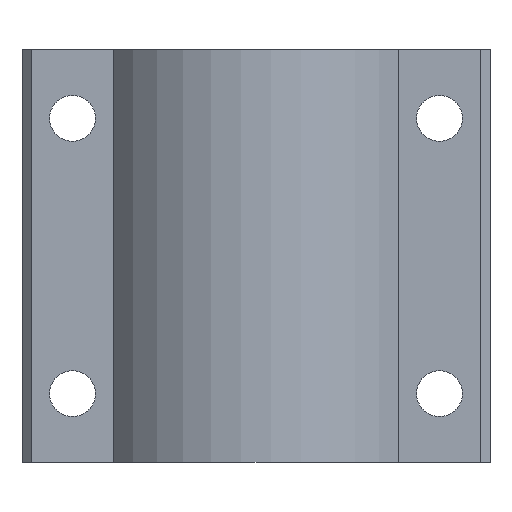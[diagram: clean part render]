
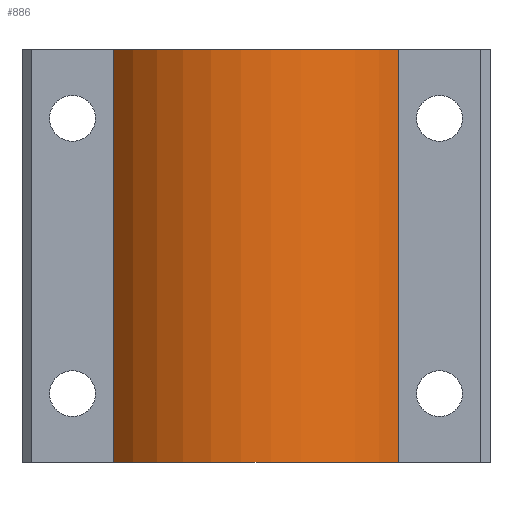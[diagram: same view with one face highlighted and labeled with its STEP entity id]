
A CAD part, front view. The second image highlights one B-rep face of the part: STEP entity #886.
In plain terms, the highlighted cylindrical face has radius 38 mm (diameter 76 mm), a partial arc.
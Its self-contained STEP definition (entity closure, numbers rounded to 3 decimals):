
#689=CARTESIAN_POINT('',(30.275,-17.802,-5.0));
#690=VERTEX_POINT('',#689);
#697=CARTESIAN_POINT('',(-31.693,-17.802,-5.0));
#698=VERTEX_POINT('',#697);
#699=CARTESIAN_POINT('',(-0.709,4.198,-5.0));
#700=DIRECTION('',(0.0,0.0,1.));
#701=DIRECTION('',(0.815,0.579,0.0));
#702=AXIS2_PLACEMENT_3D('',#699,#700,#701);
#703=CIRCLE('',#702,38.0);
#704=EDGE_CURVE('',#698,#690,#703,.T.);
#835=CARTESIAN_POINT('',(30.275,-17.802,85.0));
#836=VERTEX_POINT('',#835);
#843=CARTESIAN_POINT('',(30.275,-17.802,85.0));
#844=DIRECTION('',(0.0,0.0,-1.0));
#845=VECTOR('',#844,90.0);
#846=LINE('',#843,#845);
#847=EDGE_CURVE('',#836,#690,#846,.T.);
#862=CARTESIAN_POINT('',(-0.709,4.198,40.0));
#863=DIRECTION('',(0.0,0.0,1.0));
#864=DIRECTION('',(0.815,0.579,0.0));
#865=AXIS2_PLACEMENT_3D('',#862,#863,#864);
#866=CYLINDRICAL_SURFACE('',#865,38.0);
#867=CARTESIAN_POINT('',(-31.693,-17.802,85.0));
#868=VERTEX_POINT('',#867);
#869=CARTESIAN_POINT('',(-0.709,4.198,85.0));
#870=DIRECTION('',(0.0,0.0,-1.));
#871=DIRECTION('',(0.815,0.579,0.0));
#872=AXIS2_PLACEMENT_3D('',#869,#870,#871);
#873=CIRCLE('',#872,38.0);
#874=EDGE_CURVE('',#836,#868,#873,.T.);
#875=ORIENTED_EDGE('',*,*,#874,.T.);
#876=CARTESIAN_POINT('',(-31.693,-17.802,85.0));
#877=DIRECTION('',(0.0,0.0,-1.0));
#878=VECTOR('',#877,90.0);
#879=LINE('',#876,#878);
#880=EDGE_CURVE('',#868,#698,#879,.T.);
#881=ORIENTED_EDGE('',*,*,#880,.T.);
#882=ORIENTED_EDGE('',*,*,#704,.T.);
#883=ORIENTED_EDGE('',*,*,#847,.F.);
#884=EDGE_LOOP('',(#875,#881,#882,#883));
#885=FACE_OUTER_BOUND('',#884,.T.);
#886=ADVANCED_FACE('',(#885),#866,.T.);
